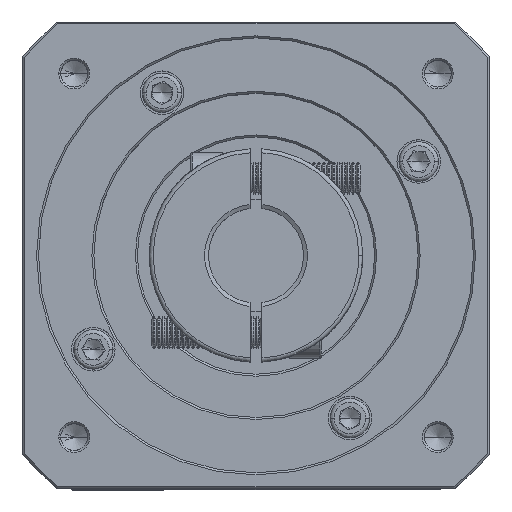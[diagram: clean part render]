
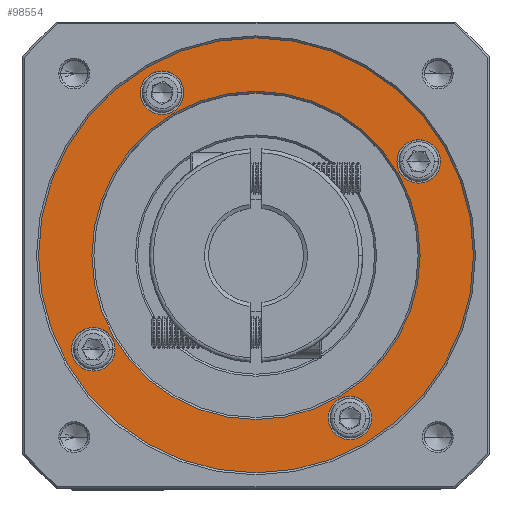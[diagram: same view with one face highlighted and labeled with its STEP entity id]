
A CAD part, top view. The second image highlights one B-rep face of the part: STEP entity #98554.
In plain terms, the highlighted planar face has unit normal (0, 0, 1).
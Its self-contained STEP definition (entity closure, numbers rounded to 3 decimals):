
#478 = ORIENTED_EDGE ( 'NONE', *, *, #95613, .T. ) ;
#1281 = DIRECTION ( 'NONE',  ( 1., 0., 0. ) ) ;
#3089 = VERTEX_POINT ( 'NONE', #32418 ) ;
#3948 = ORIENTED_EDGE ( 'NONE', *, *, #24654, .T. ) ;
#6561 = DIRECTION ( 'NONE',  ( 1., 0., 0. ) ) ;
#8820 = CARTESIAN_POINT ( 'NONE',  ( 64.597, 160.952, 23.935 ) ) ;
#8837 = DIRECTION ( 'NONE',  ( 1., 0., 0. ) ) ;
#10860 = FACE_BOUND ( 'NONE', #21171, .T. ) ;
#11243 = CARTESIAN_POINT ( 'NONE',  ( 46.347, 160.588, 23.935 ) ) ;
#12533 = DIRECTION ( 'NONE',  ( 1., 0., 0. ) ) ;
#12568 = DIRECTION ( 'NONE',  ( 0., 0., -1. ) ) ;
#12879 = DIRECTION ( 'NONE',  ( 0., 0., -1. ) ) ;
#15607 = CARTESIAN_POINT ( 'NONE',  ( 88.347, 78.316, 23.935 ) ) ;
#15920 = EDGE_CURVE ( 'NONE', #27160, #3089, #98283, .T. ) ;
#16361 = DIRECTION ( 'NONE',  ( 1., 0., 0. ) ) ;
#19954 = DIRECTION ( 'NONE',  ( 0., 0., -1. ) ) ;
#21171 = EDGE_LOOP ( 'NONE', ( #28609, #40980 ) ) ;
#22587 = CARTESIAN_POINT ( 'NONE',  ( 111.233, 143.202, 23.935 ) ) ;
#24330 = EDGE_CURVE ( 'NONE', #97015, #81362, #68353, .T. ) ;
#24654 = EDGE_CURVE ( 'NONE', #94161, #77177, #85257, .T. ) ;
#24724 = DIRECTION ( 'NONE',  ( 0., 0., 1. ) ) ;
#24769 = CIRCLE ( 'NONE', #85578, 5.5 ) ;
#25477 = PLANE ( 'NONE',  #27452 ) ;
#27160 = VERTEX_POINT ( 'NONE', #49604 ) ;
#27452 = AXIS2_PLACEMENT_3D ( 'NONE', #59388, #24724, #8837 ) ;
#27991 = CARTESIAN_POINT ( 'NONE',  ( 23.461, 95.702, 23.935 ) ) ;
#28096 = CARTESIAN_POINT ( 'NONE',  ( 88.347, 78.316, 23.935 ) ) ;
#28609 = ORIENTED_EDGE ( 'NONE', *, *, #34689, .T. ) ;
#29678 = EDGE_LOOP ( 'NONE', ( #478, #98366 ) ) ;
#30000 = ORIENTED_EDGE ( 'NONE', *, *, #24330, .T. ) ;
#30346 = EDGE_LOOP ( 'NONE', ( #74603, #32232 ) ) ;
#32232 = ORIENTED_EDGE ( 'NONE', *, *, #47070, .T. ) ;
#32418 = CARTESIAN_POINT ( 'NONE',  ( 119.597, 119.452, 23.935 ) ) ;
#33297 = FACE_BOUND ( 'NONE', #103119, .T. ) ;
#33999 = EDGE_CURVE ( 'NONE', #69941, #105682, #107852, .T. ) ;
#34689 = EDGE_CURVE ( 'NONE', #105682, #69941, #52115, .T. ) ;
#36407 = AXIS2_PLACEMENT_3D ( 'NONE', #27991, #61903, #78799 ) ;
#37244 = FACE_BOUND ( 'NONE', #30346, .T. ) ;
#37481 = DIRECTION ( 'NONE',  ( 0., -1., 0. ) ) ;
#37829 = CARTESIAN_POINT ( 'NONE',  ( 64.597, 119.452, 23.935 ) ) ;
#37950 = EDGE_CURVE ( 'NONE', #81362, #97015, #86620, .T. ) ;
#38770 = CARTESIAN_POINT ( 'NONE',  ( 64.597, 119.452, 23.935 ) ) ;
#39354 = CIRCLE ( 'NONE', #72425, 5.5 ) ;
#40980 = ORIENTED_EDGE ( 'NONE', *, *, #33999, .T. ) ;
#44303 = CARTESIAN_POINT ( 'NONE',  ( 64.597, 119.452, 23.935 ) ) ;
#44488 = AXIS2_PLACEMENT_3D ( 'NONE', #66059, #74839, #50565 ) ;
#44706 = AXIS2_PLACEMENT_3D ( 'NONE', #44303, #52829, #95231 ) ;
#45027 = CARTESIAN_POINT ( 'NONE',  ( 40.847, 160.588, 23.935 ) ) ;
#45530 = DIRECTION ( 'NONE',  ( 0., 0., -1. ) ) ;
#45687 = CARTESIAN_POINT ( 'NONE',  ( 28.961, 95.702, 23.935 ) ) ;
#46878 = CARTESIAN_POINT ( 'NONE',  ( 35.347, 160.588, 23.935 ) ) ;
#47070 = EDGE_CURVE ( 'NONE', #63350, #67277, #63926, .T. ) ;
#47716 = VERTEX_POINT ( 'NONE', #57368 ) ;
#47821 = FACE_OUTER_BOUND ( 'NONE', #29678, .T. ) ;
#48904 = CIRCLE ( 'NONE', #44706, 55. ) ;
#48939 = CARTESIAN_POINT ( 'NONE',  ( 17.961, 95.702, 23.935 ) ) ;
#49604 = CARTESIAN_POINT ( 'NONE',  ( 9.597, 119.452, 23.935 ) ) ;
#49606 = DIRECTION ( 'NONE',  ( 0., 0., -1. ) ) ;
#50565 = DIRECTION ( 'NONE',  ( 1., 0., 0. ) ) ;
#52115 = CIRCLE ( 'NONE', #106554, 5.5 ) ;
#52829 = DIRECTION ( 'NONE',  ( 0., 0., 1. ) ) ;
#57368 = CARTESIAN_POINT ( 'NONE',  ( 93.847, 78.316, 23.935 ) ) ;
#59388 = CARTESIAN_POINT ( 'NONE',  ( 64.597, 119.452, 23.935 ) ) ;
#59578 = ORIENTED_EDGE ( 'NONE', *, *, #70823, .T. ) ;
#61024 = CIRCLE ( 'NONE', #104997, 5.5 ) ;
#61903 = DIRECTION ( 'NONE',  ( 0., 0., -1. ) ) ;
#62528 = DIRECTION ( 'NONE',  ( 1., 0., 0. ) ) ;
#63163 = EDGE_LOOP ( 'NONE', ( #73201, #30000 ) ) ;
#63350 = VERTEX_POINT ( 'NONE', #46878 ) ;
#63926 = CIRCLE ( 'NONE', #79331, 5.5 ) ;
#66059 = CARTESIAN_POINT ( 'NONE',  ( 105.733, 143.202, 23.935 ) ) ;
#67277 = VERTEX_POINT ( 'NONE', #11243 ) ;
#68353 = CIRCLE ( 'NONE', #88268, 41.5 ) ;
#68857 = CARTESIAN_POINT ( 'NONE',  ( 82.847, 78.316, 23.935 ) ) ;
#69076 = CARTESIAN_POINT ( 'NONE',  ( 64.597, 77.952, 23.935 ) ) ;
#69286 = AXIS2_PLACEMENT_3D ( 'NONE', #91388, #91009, #6561 ) ;
#69941 = VERTEX_POINT ( 'NONE', #48939 ) ;
#70823 = EDGE_CURVE ( 'NONE', #47716, #99862, #24769, .T. ) ;
#72230 = AXIS2_PLACEMENT_3D ( 'NONE', #37829, #96844, #37481 ) ;
#72425 = AXIS2_PLACEMENT_3D ( 'NONE', #15607, #49606, #16361 ) ;
#73137 = EDGE_CURVE ( 'NONE', #67277, #63350, #61024, .T. ) ;
#73201 = ORIENTED_EDGE ( 'NONE', *, *, #37950, .T. ) ;
#73332 = DIRECTION ( 'NONE',  ( 1., 0., 0. ) ) ;
#74603 = ORIENTED_EDGE ( 'NONE', *, *, #73137, .T. ) ;
#74839 = DIRECTION ( 'NONE',  ( 0., 0., -1. ) ) ;
#76366 = ORIENTED_EDGE ( 'NONE', *, *, #78260, .T. ) ;
#77177 = VERTEX_POINT ( 'NONE', #22587 ) ;
#78260 = EDGE_CURVE ( 'NONE', #99862, #47716, #39354, .T. ) ;
#78799 = DIRECTION ( 'NONE',  ( 1., 0., 0. ) ) ;
#79331 = AXIS2_PLACEMENT_3D ( 'NONE', #45027, #12879, #73332 ) ;
#80460 = ORIENTED_EDGE ( 'NONE', *, *, #92543, .T. ) ;
#81362 = VERTEX_POINT ( 'NONE', #69076 ) ;
#81895 = DIRECTION ( 'NONE',  ( 0., 0., 1. ) ) ;
#82620 = CARTESIAN_POINT ( 'NONE',  ( 64.597, 119.452, 23.935 ) ) ;
#84281 = CIRCLE ( 'NONE', #69286, 5.5 ) ;
#85257 = CIRCLE ( 'NONE', #44488, 5.5 ) ;
#85578 = AXIS2_PLACEMENT_3D ( 'NONE', #28096, #19954, #12533 ) ;
#86620 = CIRCLE ( 'NONE', #72230, 41.5 ) ;
#87372 = FACE_BOUND ( 'NONE', #94732, .T. ) ;
#88268 = AXIS2_PLACEMENT_3D ( 'NONE', #38770, #12568, #97065 ) ;
#91009 = DIRECTION ( 'NONE',  ( 0., 0., -1. ) ) ;
#91270 = FACE_BOUND ( 'NONE', #63163, .T. ) ;
#91388 = CARTESIAN_POINT ( 'NONE',  ( 105.733, 143.202, 23.935 ) ) ;
#92543 = EDGE_CURVE ( 'NONE', #77177, #94161, #84281, .T. ) ;
#94161 = VERTEX_POINT ( 'NONE', #100039 ) ;
#94267 = DIRECTION ( 'NONE',  ( 0., 0., -1. ) ) ;
#94732 = EDGE_LOOP ( 'NONE', ( #80460, #3948 ) ) ;
#94938 = AXIS2_PLACEMENT_3D ( 'NONE', #82620, #81895, #100014 ) ;
#95231 = DIRECTION ( 'NONE',  ( 1., 0., 0. ) ) ;
#95613 = EDGE_CURVE ( 'NONE', #3089, #27160, #48904, .T. ) ;
#96844 = DIRECTION ( 'NONE',  ( 0., 0., -1. ) ) ;
#97015 = VERTEX_POINT ( 'NONE', #8820 ) ;
#97065 = DIRECTION ( 'NONE',  ( 0., -1., 0. ) ) ;
#98283 = CIRCLE ( 'NONE', #94938, 55. ) ;
#98366 = ORIENTED_EDGE ( 'NONE', *, *, #15920, .T. ) ;
#98554 = ADVANCED_FACE ( 'NONE', ( #47821, #91270, #87372, #33297, #37244, #10860 ), #25477, .T. ) ;
#99862 = VERTEX_POINT ( 'NONE', #68857 ) ;
#100014 = DIRECTION ( 'NONE',  ( 1., 0., 0. ) ) ;
#100039 = CARTESIAN_POINT ( 'NONE',  ( 100.233, 143.202, 23.935 ) ) ;
#102364 = CARTESIAN_POINT ( 'NONE',  ( 40.847, 160.588, 23.935 ) ) ;
#103119 = EDGE_LOOP ( 'NONE', ( #59578, #76366 ) ) ;
#104997 = AXIS2_PLACEMENT_3D ( 'NONE', #102364, #94267, #1281 ) ;
#105279 = CARTESIAN_POINT ( 'NONE',  ( 23.461, 95.702, 23.935 ) ) ;
#105682 = VERTEX_POINT ( 'NONE', #45687 ) ;
#106554 = AXIS2_PLACEMENT_3D ( 'NONE', #105279, #45530, #62528 ) ;
#107852 = CIRCLE ( 'NONE', #36407, 5.5 ) ;
